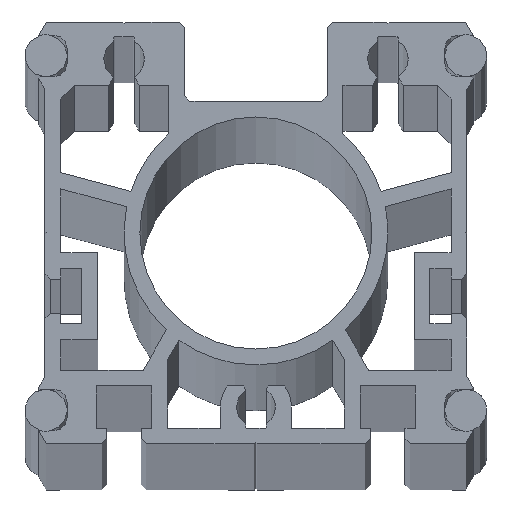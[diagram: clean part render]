
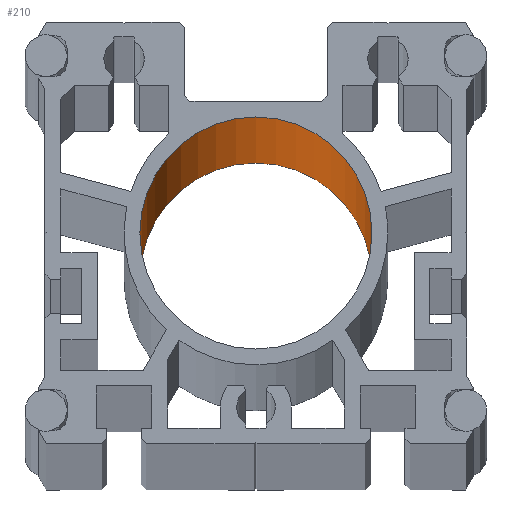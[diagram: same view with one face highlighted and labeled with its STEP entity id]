
A CAD part, top view. The second image highlights one B-rep face of the part: STEP entity #210.
In plain terms, the highlighted cylindrical face has radius 22 mm (diameter 44 mm), a partial arc.
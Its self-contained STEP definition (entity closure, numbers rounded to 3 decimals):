
#208 = EDGE_CURVE ( 'NONE', #1056, #1054, #3639, .T. ) ;
#210 = ADVANCED_FACE ( 'NONE', ( #3634 ), #3633, .F. ) ;
#211 = EDGE_LOOP ( 'NONE', ( #212, #213, #214, #215 ) ) ;
#212 = ORIENTED_EDGE ( 'NONE', *, *, #1012, .F. ) ;
#213 = ORIENTED_EDGE ( 'NONE', *, *, #2640, .F. ) ;
#214 = ORIENTED_EDGE ( 'NONE', *, *, #1058, .T. ) ;
#215 = ORIENTED_EDGE ( 'NONE', *, *, #208, .T. ) ;
#1012 = EDGE_CURVE ( 'NONE', #1261, #1054, #7437, .T. ) ;
#1052 = VERTEX_POINT ( 'NONE', #4737 ) ;
#1054 = VERTEX_POINT ( 'NONE', #4732 ) ;
#1056 = VERTEX_POINT ( 'NONE', #4753 ) ;
#1058 = EDGE_CURVE ( 'NONE', #1052, #1056, #4752, .T. ) ;
#1261 = VERTEX_POINT ( 'NONE', #5129 ) ;
#2640 = EDGE_CURVE ( 'NONE', #1052, #1261, #7520, .T. ) ;
#3628 = DIRECTION ( 'NONE',  ( 1., 0., 0. ) ) ;
#3629 = DIRECTION ( 'NONE',  ( 0., 0., 1. ) ) ;
#3630 = CARTESIAN_POINT ( 'NONE',  ( 0., 40., -2499. ) ) ;
#3631 = AXIS2_PLACEMENT_3D ( 'NONE', #3630, #3629, #3628 ) ;
#3633 = CYLINDRICAL_SURFACE ( 'NONE', #3631, 22. ) ;
#3634 = FACE_OUTER_BOUND ( 'NONE', #211, .T. ) ;
#3635 = DIRECTION ( 'NONE',  ( 1., 0., 0. ) ) ;
#3636 = DIRECTION ( 'NONE',  ( 0., 0., 1. ) ) ;
#3637 = CARTESIAN_POINT ( 'NONE',  ( 0., 40., 2499. ) ) ;
#3638 = AXIS2_PLACEMENT_3D ( 'NONE', #3637, #3636, #3635 ) ;
#3639 = CIRCLE ( 'NONE', #3638, 22. ) ;
#4732 = CARTESIAN_POINT ( 'NONE',  ( -22., 40., 2499. ) ) ;
#4737 = CARTESIAN_POINT ( 'NONE',  ( 22., 40., -2499. ) ) ;
#4749 = DIRECTION ( 'NONE',  ( 0., 0., 1. ) ) ;
#4750 = VECTOR ( 'NONE', #4749, 1000. ) ;
#4751 = CARTESIAN_POINT ( 'NONE',  ( 22., 40., -2499. ) ) ;
#4752 = LINE ( 'NONE', #4751, #4750 ) ;
#4753 = CARTESIAN_POINT ( 'NONE',  ( 22., 40., 2499. ) ) ;
#5129 = CARTESIAN_POINT ( 'NONE',  ( -22., 40., -2499. ) ) ;
#7434 = DIRECTION ( 'NONE',  ( 0., 0., 1. ) ) ;
#7435 = VECTOR ( 'NONE', #7434, 1000. ) ;
#7436 = CARTESIAN_POINT ( 'NONE',  ( -22., 40., -2499. ) ) ;
#7437 = LINE ( 'NONE', #7436, #7435 ) ;
#7516 = DIRECTION ( 'NONE',  ( 1., 0., 0. ) ) ;
#7517 = DIRECTION ( 'NONE',  ( 0., 0., 1. ) ) ;
#7518 = CARTESIAN_POINT ( 'NONE',  ( 0., 40., -2499. ) ) ;
#7519 = AXIS2_PLACEMENT_3D ( 'NONE', #7518, #7517, #7516 ) ;
#7520 = CIRCLE ( 'NONE', #7519, 22. ) ;
